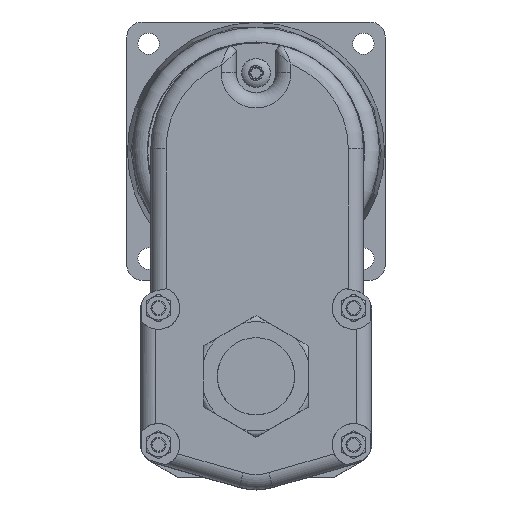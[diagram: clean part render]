
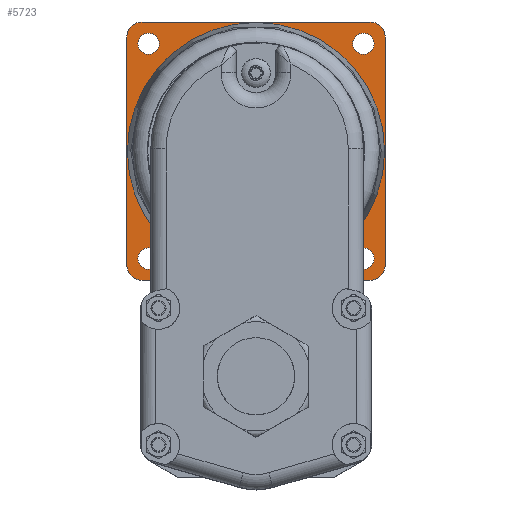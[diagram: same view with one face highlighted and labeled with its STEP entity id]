
A CAD part, top view. The second image highlights one B-rep face of the part: STEP entity #5723.
In plain terms, the highlighted planar face has unit normal (0, 0, 1).
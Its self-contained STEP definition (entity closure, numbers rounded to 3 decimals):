
#833 = CARTESIAN_POINT ( 'NONE',  ( 42.5, 116.9, -11.3 ) ) ;
#834 = PLANE ( 'NONE',  #9958 ) ;
#836 = DIRECTION ( 'NONE',  ( 0., 0., -1. ) ) ;
#837 = DIRECTION ( 'NONE',  ( -1., 0., 0. ) ) ;
#1581 = FACE_BOUND ( 'NONE', #6300, .T. ) ;
#1583 = FACE_BOUND ( 'NONE', #6289, .T. ) ;
#1584 = FACE_BOUND ( 'NONE', #6293, .T. ) ;
#1585 = FACE_BOUND ( 'NONE', #6290, .T. ) ;
#1588 = FACE_OUTER_BOUND ( 'NONE', #6292, .T. ) ;
#1590 = FACE_BOUND ( 'NONE', #6291, .T. ) ;
#2653 = VERTEX_POINT ( 'NONE', #2654 ) ;
#2654 = CARTESIAN_POINT ( 'NONE',  ( -42.331, 74.4, -11.3 ) ) ;
#2665 = VERTEX_POINT ( 'NONE', #2666 ) ;
#2666 = CARTESIAN_POINT ( 'NONE',  ( 38.855, 109.755, -11.3 ) ) ;
#2673 = VERTEX_POINT ( 'NONE', #2674 ) ;
#2674 = CARTESIAN_POINT ( 'NONE',  ( -31.855, 39.045, -11.3 ) ) ;
#2675 = VERTEX_POINT ( 'NONE', #2676 ) ;
#2676 = CARTESIAN_POINT ( 'NONE',  ( 38.855, 39.045, -11.3 ) ) ;
#2677 = VERTEX_POINT ( 'NONE', #2678 ) ;
#2678 = CARTESIAN_POINT ( 'NONE',  ( -31.855, 109.755, -11.3 ) ) ;
#3970 = ORIENTED_EDGE ( 'NONE', *, *, #4977, .T. ) ;
#3972 = ORIENTED_EDGE ( 'NONE', *, *, #4990, .F. ) ;
#3975 = ORIENTED_EDGE ( 'NONE', *, *, #4920, .T. ) ;
#3977 = ORIENTED_EDGE ( 'NONE', *, *, #4982, .T. ) ;
#3994 = ORIENTED_EDGE ( 'NONE', *, *, #4980, .F. ) ;
#3996 = ORIENTED_EDGE ( 'NONE', *, *, #4983, .T. ) ;
#3997 = ORIENTED_EDGE ( 'NONE', *, *, #4971, .T. ) ;
#4000 = ORIENTED_EDGE ( 'NONE', *, *, #4975, .F. ) ;
#4014 = ORIENTED_EDGE ( 'NONE', *, *, #4984, .T. ) ;
#4015 = ORIENTED_EDGE ( 'NONE', *, *, #4985, .T. ) ;
#4018 = ORIENTED_EDGE ( 'NONE', *, *, #4988, .F. ) ;
#4019 = ORIENTED_EDGE ( 'NONE', *, *, #4986, .T. ) ;
#4020 = ORIENTED_EDGE ( 'NONE', *, *, #4981, .T. ) ;
#4531 = VERTEX_POINT ( 'NONE', #7309 ) ;
#4532 = VERTEX_POINT ( 'NONE', #7310 ) ;
#4533 = VERTEX_POINT ( 'NONE', #7311 ) ;
#4534 = VERTEX_POINT ( 'NONE', #7312 ) ;
#4535 = VERTEX_POINT ( 'NONE', #7313 ) ;
#4536 = VERTEX_POINT ( 'NONE', #7314 ) ;
#4537 = VERTEX_POINT ( 'NONE', #7315 ) ;
#4538 = VERTEX_POINT ( 'NONE', #7316 ) ;
#4920 = EDGE_CURVE ( 'NONE', #2653, #2653, #8753, .T. ) ;
#4971 = EDGE_CURVE ( 'NONE', #4531, #4536, #8833, .T. ) ;
#4975 = EDGE_CURVE ( 'NONE', #2665, #2665, #8841, .T. ) ;
#4977 = EDGE_CURVE ( 'NONE', #4533, #4535, #8835, .T. ) ;
#4980 = EDGE_CURVE ( 'NONE', #2673, #2673, #8847, .T. ) ;
#4981 = EDGE_CURVE ( 'NONE', #4536, #4533, #8849, .T. ) ;
#4982 = EDGE_CURVE ( 'NONE', #4535, #4532, #8851, .T. ) ;
#4983 = EDGE_CURVE ( 'NONE', #4532, #4534, #8840, .T. ) ;
#4984 = EDGE_CURVE ( 'NONE', #4534, #4537, #8853, .T. ) ;
#4985 = EDGE_CURVE ( 'NONE', #4537, #4538, #8839, .T. ) ;
#4986 = EDGE_CURVE ( 'NONE', #4538, #4531, #8856, .T. ) ;
#4988 = EDGE_CURVE ( 'NONE', #2675, #2675, #8858, .T. ) ;
#4990 = EDGE_CURVE ( 'NONE', #2677, #2677, #8861, .T. ) ;
#5723 = ADVANCED_FACE ( 'NONE', ( #1581, #1584, #1588, #1590, #1585, #1583 ), #834, .F. ) ;
#6289 = EDGE_LOOP ( 'NONE', ( #3975 ) ) ;
#6290 = EDGE_LOOP ( 'NONE', ( #3972 ) ) ;
#6291 = EDGE_LOOP ( 'NONE', ( #4018 ) ) ;
#6292 = EDGE_LOOP ( 'NONE', ( #3997, #4020, #3970, #3977, #3996, #4014, #4015, #4019 ) ) ;
#6293 = EDGE_LOOP ( 'NONE', ( #3994 ) ) ;
#6300 = EDGE_LOOP ( 'NONE', ( #4000 ) ) ;
#7309 = CARTESIAN_POINT ( 'NONE',  ( -42.5, 111.9, -11.3 ) ) ;
#7310 = CARTESIAN_POINT ( 'NONE',  ( 42.5, 36.9, -11.3 ) ) ;
#7311 = CARTESIAN_POINT ( 'NONE',  ( -37.5, 31.9, -11.3 ) ) ;
#7312 = CARTESIAN_POINT ( 'NONE',  ( 42.5, 111.9, -11.3 ) ) ;
#7313 = CARTESIAN_POINT ( 'NONE',  ( 37.5, 31.9, -11.3 ) ) ;
#7314 = CARTESIAN_POINT ( 'NONE',  ( -42.5, 36.9, -11.3 ) ) ;
#7315 = CARTESIAN_POINT ( 'NONE',  ( 37.5, 116.9, -11.3 ) ) ;
#7316 = CARTESIAN_POINT ( 'NONE',  ( -37.5, 116.9, -11.3 ) ) ;
#8061 = CARTESIAN_POINT ( 'NONE',  ( 0., 74.4, -11.3 ) ) ;
#8069 = DIRECTION ( 'NONE',  ( 0., 0., -1. ) ) ;
#8070 = DIRECTION ( 'NONE',  ( -1., 0., 0. ) ) ;
#8189 = CARTESIAN_POINT ( 'NONE',  ( -42.5, 116.9, -11.3 ) ) ;
#8190 = DIRECTION ( 'NONE',  ( 0., -1., 0. ) ) ;
#8192 = CARTESIAN_POINT ( 'NONE',  ( -35.355, 39.045, -11.3 ) ) ;
#8200 = CARTESIAN_POINT ( 'NONE',  ( 35.355, 109.755, -11.3 ) ) ;
#8201 = DIRECTION ( 'NONE',  ( 0., 0., 1. ) ) ;
#8202 = DIRECTION ( 'NONE',  ( 1., 0., 0. ) ) ;
#8206 = CARTESIAN_POINT ( 'NONE',  ( -42.5, 31.9, -11.3 ) ) ;
#8207 = DIRECTION ( 'NONE',  ( 1., 0., 0. ) ) ;
#8211 = CARTESIAN_POINT ( 'NONE',  ( -37.5, 36.9, -11.3 ) ) ;
#8214 = CARTESIAN_POINT ( 'NONE',  ( 37.5, 36.9, -11.3 ) ) ;
#8215 = DIRECTION ( 'NONE',  ( 0., 0., 1. ) ) ;
#8216 = DIRECTION ( 'NONE',  ( 1., 0., 0. ) ) ;
#8217 = CARTESIAN_POINT ( 'NONE',  ( 37.5, 111.9, -11.3 ) ) ;
#8218 = DIRECTION ( 'NONE',  ( 0., 0., 1. ) ) ;
#8219 = DIRECTION ( 'NONE',  ( -1., 0., 0. ) ) ;
#8220 = CARTESIAN_POINT ( 'NONE',  ( -37.5, 111.9, -11.3 ) ) ;
#8221 = DIRECTION ( 'NONE',  ( 0., 0., 1. ) ) ;
#8222 = DIRECTION ( 'NONE',  ( -1., 0., 0. ) ) ;
#8223 = CARTESIAN_POINT ( 'NONE',  ( 42.5, 116.9, -11.3 ) ) ;
#8224 = DIRECTION ( 'NONE',  ( 0., 1., 0. ) ) ;
#8225 = CARTESIAN_POINT ( 'NONE',  ( 35.355, 39.045, -11.3 ) ) ;
#8226 = DIRECTION ( 'NONE',  ( 0., 0., 1. ) ) ;
#8227 = DIRECTION ( 'NONE',  ( -1., 0., 0. ) ) ;
#8228 = CARTESIAN_POINT ( 'NONE',  ( -42.5, 116.9, -11.3 ) ) ;
#8229 = DIRECTION ( 'NONE',  ( -1., 0., 0. ) ) ;
#8231 = DIRECTION ( 'NONE',  ( 0., 0., 1. ) ) ;
#8232 = DIRECTION ( 'NONE',  ( -1., 0., 0. ) ) ;
#8235 = DIRECTION ( 'NONE',  ( 0., 0., 1. ) ) ;
#8236 = DIRECTION ( 'NONE',  ( 1., 0., 0. ) ) ;
#8239 = CARTESIAN_POINT ( 'NONE',  ( -35.355, 109.755, -11.3 ) ) ;
#8240 = DIRECTION ( 'NONE',  ( 0., 0., 1. ) ) ;
#8241 = DIRECTION ( 'NONE',  ( 1., 0., 0. ) ) ;
#8753 = CIRCLE ( 'NONE', #9611, 42.331 ) ;
#8833 = LINE ( 'NONE', #8189, #8834 ) ;
#8834 = VECTOR ( 'NONE', #8190, 1000. ) ;
#8835 = LINE ( 'NONE', #8206, #8842 ) ;
#8839 = LINE ( 'NONE', #8228, #8850 ) ;
#8840 = LINE ( 'NONE', #8223, #8848 ) ;
#8841 = CIRCLE ( 'NONE', #9635, 3.5 ) ;
#8842 = VECTOR ( 'NONE', #8207, 1000. ) ;
#8847 = CIRCLE ( 'NONE', #9641, 3.5 ) ;
#8848 = VECTOR ( 'NONE', #8224, 1000. ) ;
#8849 = CIRCLE ( 'NONE', #9642, 5. ) ;
#8850 = VECTOR ( 'NONE', #8229, 1000. ) ;
#8851 = CIRCLE ( 'NONE', #9639, 5. ) ;
#8853 = CIRCLE ( 'NONE', #9643, 5. ) ;
#8856 = CIRCLE ( 'NONE', #9644, 5. ) ;
#8858 = CIRCLE ( 'NONE', #9645, 3.5 ) ;
#8861 = CIRCLE ( 'NONE', #9632, 3.5 ) ;
#9611 = AXIS2_PLACEMENT_3D ( 'NONE', #8061, #8069, #8070 ) ;
#9632 = AXIS2_PLACEMENT_3D ( 'NONE', #8239, #8240, #8241 ) ;
#9635 = AXIS2_PLACEMENT_3D ( 'NONE', #8200, #8201, #8202 ) ;
#9639 = AXIS2_PLACEMENT_3D ( 'NONE', #8214, #8221, #8222 ) ;
#9641 = AXIS2_PLACEMENT_3D ( 'NONE', #8192, #8215, #8216 ) ;
#9642 = AXIS2_PLACEMENT_3D ( 'NONE', #8211, #8218, #8219 ) ;
#9643 = AXIS2_PLACEMENT_3D ( 'NONE', #8217, #8226, #8227 ) ;
#9644 = AXIS2_PLACEMENT_3D ( 'NONE', #8220, #8231, #8232 ) ;
#9645 = AXIS2_PLACEMENT_3D ( 'NONE', #8225, #8235, #8236 ) ;
#9958 = AXIS2_PLACEMENT_3D ( 'NONE', #833, #836, #837 ) ;
